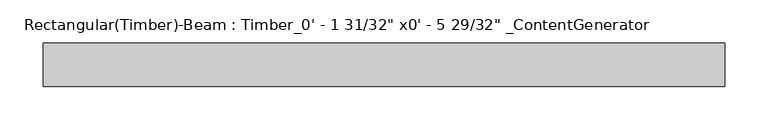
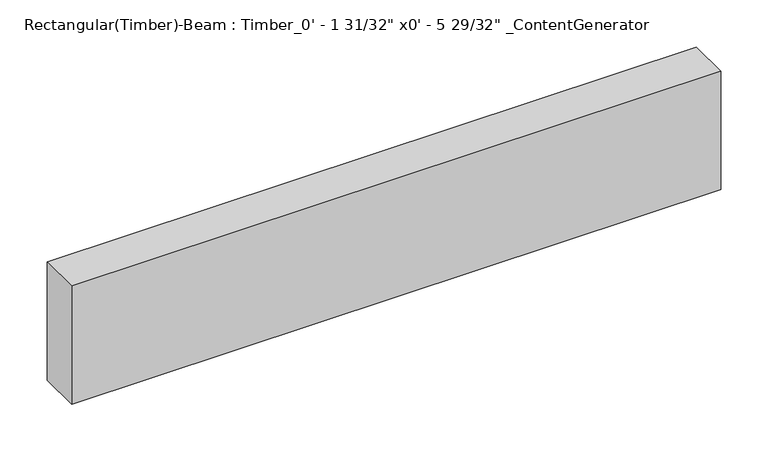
"""IFC4 building model written with IfcOpenShell, lengths in millimetres: beam geometry."""

from ifc_helpers import new_model, si_unit, frame, origin, place, context, project, spatial, polyline, outline, extrude, source, transform, mapped, element, save


def beam_fa8ff98f(model_context):
    return source(origin(), model_context, "Body", "SweptSolid", [
        extrude(outline(polyline([(395.0284875, 25.4), (395.0284875, -25.4), (-395.0284875, -25.4), (-395.0284875, 25.4), (395.0284875, 25.4)])), frame((0.0, 0.0, -76.2), z_axis=(0.0, 0.0, 1.0), x_axis=(1.0, 0.0, 0.0)), (0.0, 0.0, 1.0), 152.4),
    ])


if __name__ == "__main__":
    model = new_model("IFC4")
    model_context = context("Model", 3, world=origin())
    ifc_project = project(units=[si_unit("LENGTHUNIT", "METRE", prefix="MILLI")], contexts=[model_context])
    site = spatial("IfcSite", under=ifc_project)
    building = spatial("IfcBuilding", under=site)
    placement = place(None, origin())
    beam_shape = beam_fa8ff98f(model_context)
    element("IfcBeam", 1, ObjectType="Rectangular(Timber)-Beam : Timber_0' - 1 31/32\" x0' - 5 29/32\" _ContentGenerator", at=placement, inside=building, context=model_context, shape_type="MappedRepresentation", body=[
        mapped(beam_shape, transform((0.0, 0.0, 0.0), x_axis=(1.0, 0.0, 0.0), y_axis=(0.0, 1.0, 0.0), z_axis=(0.0, 0.0, 1.0))),
    ])
    save(model, "model.ifc")
